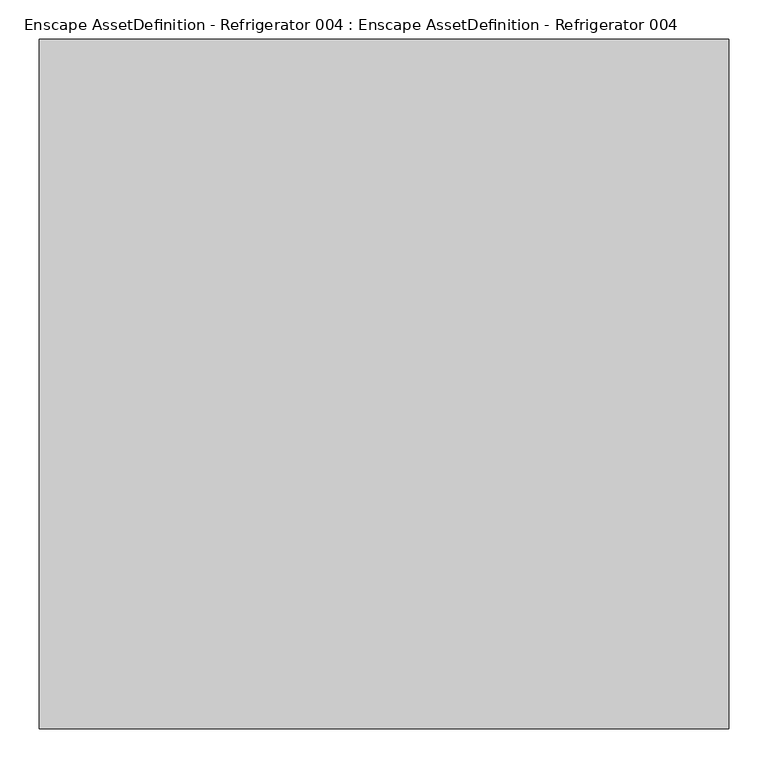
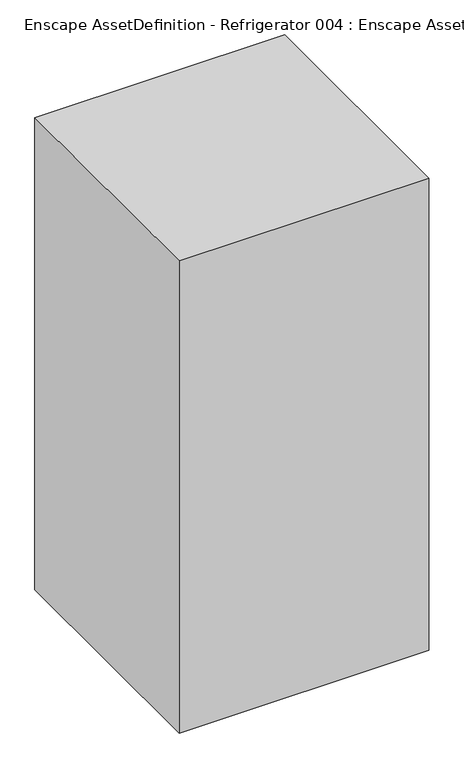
"""IFC4 building model written with IfcOpenShell, lengths in millimetres: geographic element geometry, Enscape AssetDefinition - Refrigerator 004 : Enscape AssetDefinition - Refrigerator 004."""

from ifc_helpers import new_model, si_unit, origin, place, context, project, spatial, triangles, source, transform, mapped, element, save


def enscape_assetdefinition_refrigerator_004_enscape_1c06175c(model_context):
    return source(origin(), model_context, "Body", "Tessellation", [
        triangles([(-439.9999961, -439.9999961, 1759.9999844), (439.9999961, 439.9999961, 1759.9999844), (439.9999961, -439.9999961, 1759.9999844), (-439.9999961, 439.9999961, 1759.9999844), (-439.9999961, 439.9999961, 0.0), (439.9999961, 439.9999961, 0.0), (-439.9999961, -439.9999961, 0.0), (439.9999961, -439.9999961, 0.0)], [[5, 7, 1], [6, 5, 4], [8, 6, 2], [7, 8, 3], [1, 3, 2], [7, 5, 6], [5, 1, 4], [6, 4, 2], [8, 2, 3], [7, 3, 1], [1, 2, 4], [7, 6, 8]]),
    ])


if __name__ == "__main__":
    model = new_model("IFC4")
    model_context = context("Model", 3, world=origin())
    ifc_project = project(units=[si_unit("LENGTHUNIT", "METRE", prefix="MILLI")], contexts=[model_context])
    site = spatial("IfcSite", under=ifc_project)
    building = spatial("IfcBuilding", under=site)
    placement = place(None, origin())
    enscape_assetdefinition_refrigerator_004_enscape_shape = enscape_assetdefinition_refrigerator_004_enscape_1c06175c(model_context)
    element("IfcGeographicElement", 1, ObjectType="Enscape AssetDefinition - Refrigerator 004 : Enscape AssetDefinition - Refrigerator 004", at=placement, inside=building, context=model_context, shape_type="MappedRepresentation", body=[
        mapped(enscape_assetdefinition_refrigerator_004_enscape_shape, transform((0.0, 0.0, 0.0), x_axis=(1.0, 0.0, 0.0), y_axis=(0.0, 1.0, 0.0), z_axis=(0.0, 0.0, 1.0))),
    ])
    save(model, "model.ifc")
